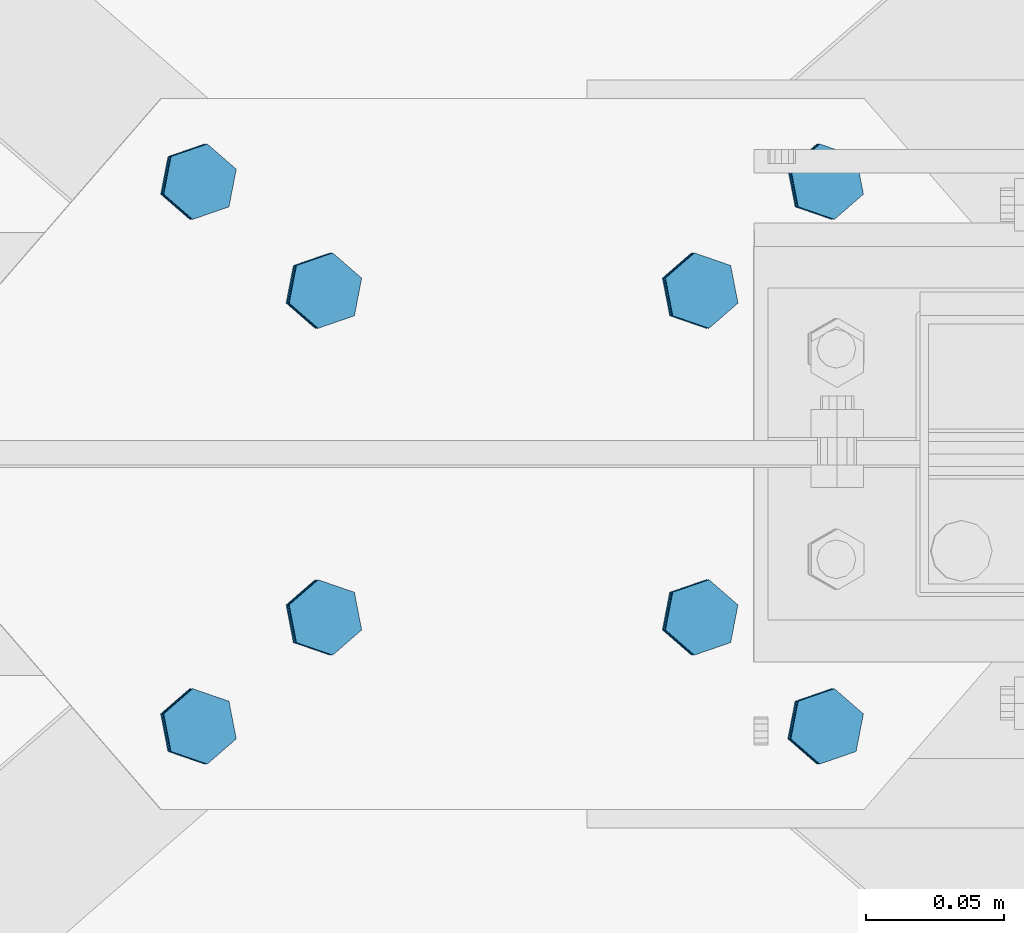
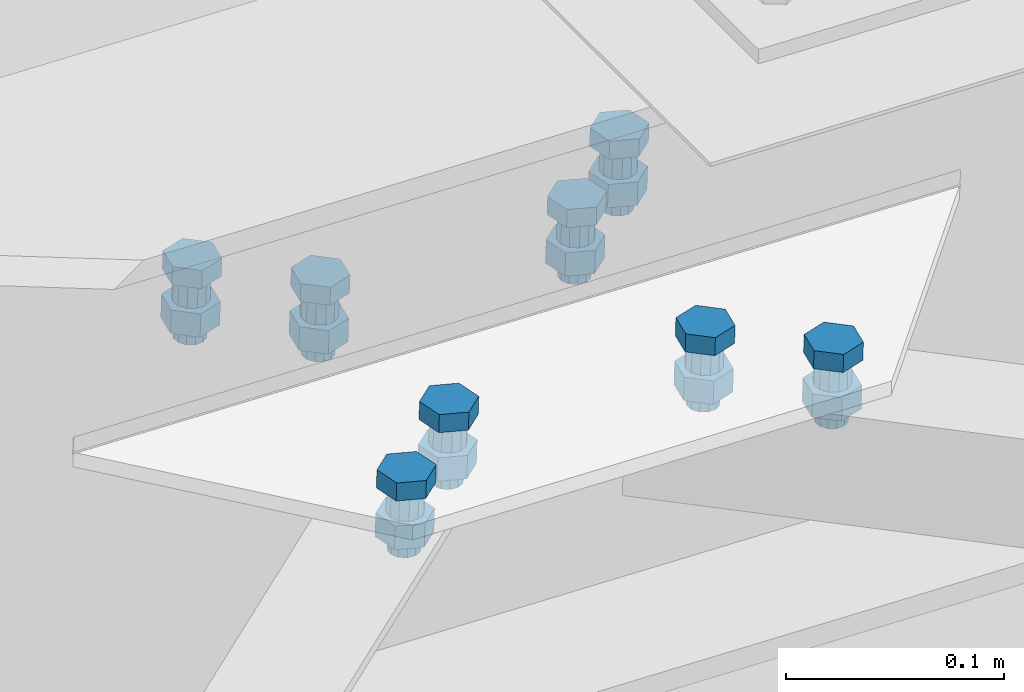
# One storey, part 238 of 3134: 4 mechanical fasteners, 3 elements without a shape of their own.
"""IFC2X3 building model written with IfcOpenShell, lengths in millimetres."""

from ifc_helpers import new_model, si_unit, frame, origin_with_axes, place, context, subcontext, project, spatial, faceted_brep, source, transform, mapped, material, type_object, element, aggregate, save


model = new_model("IFC2X3")

# Units and contexts
model_context = context("Model", 3, precision=1e-05, world=origin_with_axes())
body_context = subcontext(model_context, "Body", "Model", "MODEL_VIEW")
ifc_project = project(units=[si_unit("LENGTHUNIT", "METRE", prefix="MILLI"), si_unit("AREAUNIT", "SQUARE_METRE"), si_unit("VOLUMEUNIT", "CUBIC_METRE"), si_unit("MASSUNIT", "GRAM", prefix="KILO"), si_unit("TIMEUNIT", "SECOND"), si_unit("PLANEANGLEUNIT", "RADIAN"), si_unit("SOLIDANGLEUNIT", "STERADIAN"), si_unit("THERMODYNAMICTEMPERATUREUNIT", "DEGREE_CELSIUS"), si_unit("LUMINOUSINTENSITYUNIT", "LUMEN")], contexts=[model_context])

# Site, building, storey
site_placement = place(None, origin_with_axes())
site = spatial("IfcSite", under=ifc_project, at=site_placement, CompositionType="ELEMENT")
building_placement = place(site_placement, origin_with_axes())
building = spatial("IfcBuilding", under=site, at=building_placement, Name="Undefined", CompositionType="ELEMENT")
storey_placement = place(building_placement, origin_with_axes())
storey = spatial("IfcBuildingStorey", under=building, at=storey_placement, Name="Undefined", CompositionType="ELEMENT", Elevation=0.0)

# Assembly, mechanical fastener
assembly_1_placement = place(storey_placement, origin_with_axes())
assembly_1 = element("IfcElementAssembly", 1, at=assembly_1_placement, inside=storey, AssemblyPlace="NOTDEFINED", PredefinedType="RIGID_FRAME")
ifc_material = material(Name="8.8")
mechanical_fastener_type = type_object("IfcMechanicalFastenerType", Name="Bolt assembly")
shared_shape_1 = source(origin_with_axes(), body_context, "Body", "Brep", [
    faceted_brep([(13.856406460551, -14.0, 0.0), (6.92820323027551, -14.0, 12.0), (-6.92820323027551, -14.0, 12.0), (-13.856406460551, -14.0, 1.69692038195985e-15), (-6.92820323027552, -14.0, -12.0), (6.9282032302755, -14.0, -12.0), (6.9282032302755, -4.00000145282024, -12.0), (-6.92820323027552, -4.00000145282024, -12.0), (-13.856406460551, -4.00000145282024, 1.69692038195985e-15), (-6.92820323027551, -4.00000145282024, 12.0), (6.92820323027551, -4.00000145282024, 12.0), (13.856406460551, -4.00000145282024, 0.0), (8.0, -4.00000145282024, 0.0), (6.92820323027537, -4.00000145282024, 4.00000000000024), (3.99999999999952, -4.00000145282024, 6.92820323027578), (-8.29068785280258e-13, -4.00000145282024, 8.0), (-4.00000000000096, -4.00000145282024, 6.92820323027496), (-6.9282032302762, -4.00000145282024, 3.99999999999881), (-8.0, -4.00000145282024, -1.65813757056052e-12), (-6.92820323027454, -4.00000145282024, -4.00000000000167), (-3.99999999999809, -4.00000145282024, -6.92820323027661), (2.47832457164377e-12, -4.00000145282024, -8.0), (4.00000000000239, -4.00000145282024, -6.92820323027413), (6.92820323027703, -4.00000145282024, -3.99999999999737), (6.92820323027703, 31.0, -3.99999999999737), (4.00000000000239, 31.0, -6.92820323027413), (2.47832457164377e-12, 31.0, -8.0), (-3.99999999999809, 31.0, -6.92820323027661), (-6.92820323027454, 31.0, -4.00000000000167), (-8.0, 31.0, -1.65813757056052e-12), (-6.9282032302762, 31.0, 3.99999999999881), (-4.00000000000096, 31.0, 6.92820323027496), (-8.29068785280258e-13, 31.0, 8.0), (3.99999999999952, 31.0, 6.92820323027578), (6.92820323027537, 31.0, 4.00000000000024), (8.0, 31.0, 0.0), (13.856406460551, 9.99999995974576, 0.0), (6.92820323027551, 9.99999995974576, 12.0), (-6.92820323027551, 9.99999995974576, 12.0), (-13.856406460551, 9.99999995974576, 1.69692038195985e-15), (-6.92820323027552, 9.99999995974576, -12.0), (6.9282032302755, 9.99999995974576, -12.0), (6.9282032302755, 22.9999913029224, -12.0), (-6.92820323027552, 22.9999913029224, -12.0), (-13.856406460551, 22.9999913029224, 1.69692038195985e-15), (-6.92820323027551, 22.9999913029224, 12.0), (6.92820323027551, 22.9999913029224, 12.0), (13.856406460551, 22.9999913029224, 0.0)], [[[0, 1, 2, 3, 4, 5]], [[6, 7, 8, 9, 10, 11]], [[0, 11, 10, 1]], [[1, 10, 9, 2]], [[2, 9, 8, 3]], [[3, 8, 7, 4]], [[4, 7, 6, 5]], [[5, 6, 11, 0]], [[12, 13, 14, 15, 16, 17, 18, 19, 20, 21, 22, 23]], [[24, 25, 26, 27, 28, 29, 30, 31, 32, 33, 34, 35]], [[12, 35, 34, 13]], [[13, 34, 33, 14]], [[14, 33, 32, 15]], [[15, 32, 31, 16]], [[16, 31, 30, 17]], [[17, 30, 29, 18]], [[18, 29, 28, 19]], [[19, 28, 27, 20]], [[20, 27, 26, 21]], [[21, 26, 25, 22]], [[22, 25, 24, 23]], [[23, 24, 35, 12]], [[36, 37, 38, 39, 40, 41]], [[42, 43, 44, 45, 46, 47]], [[36, 47, 46, 37]], [[37, 46, 45, 38]], [[38, 45, 44, 39]], [[39, 44, 43, 40]], [[40, 43, 42, 41]], [[41, 42, 47, 36]]]),
    faceted_brep([(9.0, -3.9, 0.0), (7.79422863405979, -3.9, 4.50000000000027), (4.49999999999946, -3.9, 7.79422863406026), (-9.3270238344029e-13, -3.9, 9.0), (-4.50000000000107, -3.9, 7.79422863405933), (-7.79422863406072, -3.9, 4.49999999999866), (-9.0, -3.9, -1.86540476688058e-12), (-7.79422863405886, -3.9, -4.50000000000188), (-4.49999999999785, -3.9, -7.79422863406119), (2.78811514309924e-12, -3.9, -9.0), (4.50000000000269, -3.9, -7.7942286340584), (7.79422863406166, -3.9, -4.49999999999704), (7.79422863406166, 4.09999854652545, -4.49999999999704), (4.50000000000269, 4.09999854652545, -7.7942286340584), (2.78811514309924e-12, 4.09999854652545, -9.0), (-4.49999999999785, 4.09999854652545, -7.79422863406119), (-7.79422863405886, 4.09999854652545, -4.50000000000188), (-9.0, 4.09999854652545, -1.86540476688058e-12), (-7.79422863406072, 4.09999854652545, 4.49999999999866), (-4.50000000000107, 4.09999854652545, 7.79422863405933), (-9.3270238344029e-13, 4.09999854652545, 9.0), (4.49999999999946, 4.09999854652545, 7.79422863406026), (7.79422863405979, 4.09999854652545, 4.50000000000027), (9.0, 4.09999854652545, 0.0), (9.0, 3.9, 0.0), (7.79422863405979, 3.9, 4.50000000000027), (4.49999999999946, 3.9, 7.79422863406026), (-9.3270238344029e-13, 3.9, 9.0), (-4.50000000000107, 3.9, 7.79422863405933), (-7.79422863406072, 3.9, 4.49999999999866), (-9.0, 3.9, -1.86540476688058e-12), (-7.79422863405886, 3.9, -4.50000000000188), (-4.49999999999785, 3.9, -7.79422863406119), (2.78811514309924e-12, 3.9, -9.0), (4.50000000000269, 3.9, -7.7942286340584), (7.79422863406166, 3.9, -4.49999999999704), (7.79422863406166, 9.99999995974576, -4.49999999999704), (4.50000000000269, 9.99999995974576, -7.7942286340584), (2.78811514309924e-12, 9.99999995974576, -9.0), (-4.49999999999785, 9.99999995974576, -7.79422863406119), (-7.79422863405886, 9.99999995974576, -4.50000000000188), (-9.0, 9.99999995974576, -1.86540476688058e-12), (-7.79422863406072, 9.99999995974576, 4.49999999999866), (-4.50000000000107, 9.99999995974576, 7.79422863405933), (-9.3270238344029e-13, 9.99999995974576, 9.0), (4.49999999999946, 9.99999995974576, 7.79422863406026), (7.79422863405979, 9.99999995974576, 4.50000000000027), (9.0, 9.99999995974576, 0.0)], [[[0, 1, 2, 3, 4, 5, 6, 7, 8, 9, 10, 11]], [[12, 13, 14, 15, 16, 17, 18, 19, 20, 21, 22, 23]], [[0, 23, 22, 1]], [[1, 22, 21, 2]], [[2, 21, 20, 3]], [[3, 20, 19, 4]], [[4, 19, 18, 5]], [[5, 18, 17, 6]], [[6, 17, 16, 7]], [[7, 16, 15, 8]], [[8, 15, 14, 9]], [[9, 14, 13, 10]], [[10, 13, 12, 11]], [[11, 12, 23, 0]], [[24, 25, 26, 27, 28, 29, 30, 31, 32, 33, 34, 35]], [[36, 37, 38, 39, 40, 41, 42, 43, 44, 45, 46, 47]], [[24, 47, 46, 25]], [[25, 46, 45, 26]], [[26, 45, 44, 27]], [[27, 44, 43, 28]], [[28, 43, 42, 29]], [[29, 42, 41, 30]], [[30, 41, 40, 31]], [[31, 40, 39, 32]], [[32, 39, 38, 33]], [[33, 38, 37, 34]], [[34, 37, 36, 35]], [[35, 36, 47, 24]]]),
])
mechanical_fastener_1_placement = place(assembly_1_placement, frame((23106.9672242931, 58318.3356884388, 10322.7171545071), z_axis=(0.655256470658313, -0.755133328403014, -0.0203129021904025), x_axis=(-0.754770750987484, -0.655571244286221, 0.0233978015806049)))
mechanical_fastener_1 = element("IfcMechanicalFastener", 2, at=mechanical_fastener_1_placement, type_object=mechanical_fastener_type, material=ifc_material, Name="Bolt assembly", NominalDiameter=16.0, NominalLength=35.0, context=body_context, shape_type="MappedRepresentation", body=[
    mapped(shared_shape_1, transform((0.0, 0.0, 0.0))),
    mapped(shared_shape_1, transform((59.9999999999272, 0.0, 5.40239852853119e-10))),
])
aggregate(assembly_1, [mechanical_fastener_1])

# Assembly, mechanical fasteners
assembly_2_placement = place(storey_placement, origin_with_axes())
assembly_2 = element("IfcElementAssembly", 3, at=assembly_2_placement, inside=storey, Name="IPE330", AssemblyPlace="NOTDEFINED", PredefinedType="RIGID_FRAME")
shared_shape_2 = source(origin_with_axes(), body_context, "Body", "Brep", [
    faceted_brep([(13.856406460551, -14.0, 0.0), (6.92820323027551, -14.0, 12.0), (-6.92820323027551, -14.0, 12.0), (-13.856406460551, -14.0, 1.69692038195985e-15), (-6.92820323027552, -14.0, -12.0), (6.9282032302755, -14.0, -12.0), (6.9282032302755, -4.00000145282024, -12.0), (-6.92820323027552, -4.00000145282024, -12.0), (-13.856406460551, -4.00000145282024, 1.69692038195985e-15), (-6.92820323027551, -4.00000145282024, 12.0), (6.92820323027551, -4.00000145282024, 12.0), (13.856406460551, -4.00000145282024, 0.0), (8.0, -4.00000145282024, 0.0), (6.92820323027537, -4.00000145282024, 4.00000000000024), (3.99999999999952, -4.00000145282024, 6.92820323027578), (-8.29068785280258e-13, -4.00000145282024, 8.0), (-4.00000000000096, -4.00000145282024, 6.92820323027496), (-6.9282032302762, -4.00000145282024, 3.99999999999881), (-8.0, -4.00000145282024, -1.65813757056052e-12), (-6.92820323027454, -4.00000145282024, -4.00000000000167), (-3.99999999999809, -4.00000145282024, -6.92820323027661), (2.47832457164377e-12, -4.00000145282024, -8.0), (4.00000000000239, -4.00000145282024, -6.92820323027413), (6.92820323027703, -4.00000145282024, -3.99999999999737), (6.92820323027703, 31.0, -3.99999999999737), (4.00000000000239, 31.0, -6.92820323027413), (2.47832457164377e-12, 31.0, -8.0), (-3.99999999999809, 31.0, -6.92820323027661), (-6.92820323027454, 31.0, -4.00000000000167), (-8.0, 31.0, -1.65813757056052e-12), (-6.9282032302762, 31.0, 3.99999999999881), (-4.00000000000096, 31.0, 6.92820323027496), (-8.29068785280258e-13, 31.0, 8.0), (3.99999999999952, 31.0, 6.92820323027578), (6.92820323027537, 31.0, 4.00000000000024), (8.0, 31.0, 0.0), (13.856406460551, 9.99999995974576, 0.0), (6.92820323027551, 9.99999995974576, 12.0), (-6.92820323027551, 9.99999995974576, 12.0), (-13.856406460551, 9.99999995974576, 1.69692038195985e-15), (-6.92820323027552, 9.99999995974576, -12.0), (6.9282032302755, 9.99999995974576, -12.0), (6.9282032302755, 22.9999913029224, -12.0), (-6.92820323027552, 22.9999913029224, -12.0), (-13.856406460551, 22.9999913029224, 1.69692038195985e-15), (-6.92820323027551, 22.9999913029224, 12.0), (6.92820323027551, 22.9999913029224, 12.0), (13.856406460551, 22.9999913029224, 0.0)], [[[0, 1, 2, 3, 4, 5]], [[6, 7, 8, 9, 10, 11]], [[0, 11, 10, 1]], [[1, 10, 9, 2]], [[2, 9, 8, 3]], [[3, 8, 7, 4]], [[4, 7, 6, 5]], [[5, 6, 11, 0]], [[12, 13, 14, 15, 16, 17, 18, 19, 20, 21, 22, 23]], [[24, 25, 26, 27, 28, 29, 30, 31, 32, 33, 34, 35]], [[12, 35, 34, 13]], [[13, 34, 33, 14]], [[14, 33, 32, 15]], [[15, 32, 31, 16]], [[16, 31, 30, 17]], [[17, 30, 29, 18]], [[18, 29, 28, 19]], [[19, 28, 27, 20]], [[20, 27, 26, 21]], [[21, 26, 25, 22]], [[22, 25, 24, 23]], [[23, 24, 35, 12]], [[36, 37, 38, 39, 40, 41]], [[42, 43, 44, 45, 46, 47]], [[36, 47, 46, 37]], [[37, 46, 45, 38]], [[38, 45, 44, 39]], [[39, 44, 43, 40]], [[40, 43, 42, 41]], [[41, 42, 47, 36]]]),
    faceted_brep([(9.0, 3.9, 0.0), (7.79422863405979, 3.9, 4.50000000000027), (4.49999999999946, 3.9, 7.79422863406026), (-9.3270238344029e-13, 3.9, 9.0), (-4.50000000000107, 3.9, 7.79422863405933), (-7.79422863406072, 3.9, 4.49999999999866), (-9.0, 3.9, -1.86540476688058e-12), (-7.79422863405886, 3.9, -4.50000000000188), (-4.49999999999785, 3.9, -7.79422863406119), (2.78811514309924e-12, 3.9, -9.0), (4.50000000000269, 3.9, -7.7942286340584), (7.79422863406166, 3.9, -4.49999999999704), (7.79422863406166, 9.99999995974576, -4.49999999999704), (4.50000000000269, 9.99999995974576, -7.7942286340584), (2.78811514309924e-12, 9.99999995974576, -9.0), (-4.49999999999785, 9.99999995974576, -7.79422863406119), (-7.79422863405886, 9.99999995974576, -4.50000000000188), (-9.0, 9.99999995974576, -1.86540476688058e-12), (-7.79422863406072, 9.99999995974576, 4.49999999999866), (-4.50000000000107, 9.99999995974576, 7.79422863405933), (-9.3270238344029e-13, 9.99999995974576, 9.0), (4.49999999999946, 9.99999995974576, 7.79422863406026), (7.79422863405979, 9.99999995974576, 4.50000000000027), (9.0, 9.99999995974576, 0.0), (9.0, -3.9, 0.0), (7.79422863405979, -3.9, 4.50000000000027), (4.49999999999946, -3.9, 7.79422863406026), (-9.3270238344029e-13, -3.9, 9.0), (-4.50000000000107, -3.9, 7.79422863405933), (-7.79422863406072, -3.9, 4.49999999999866), (-9.0, -3.9, -1.86540476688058e-12), (-7.79422863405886, -3.9, -4.50000000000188), (-4.49999999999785, -3.9, -7.79422863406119), (2.78811514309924e-12, -3.9, -9.0), (4.50000000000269, -3.9, -7.7942286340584), (7.79422863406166, -3.9, -4.49999999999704), (7.79422863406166, 4.09999854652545, -4.49999999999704), (4.50000000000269, 4.09999854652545, -7.7942286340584), (2.78811514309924e-12, 4.09999854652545, -9.0), (-4.49999999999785, 4.09999854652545, -7.79422863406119), (-7.79422863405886, 4.09999854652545, -4.50000000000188), (-9.0, 4.09999854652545, -1.86540476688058e-12), (-7.79422863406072, 4.09999854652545, 4.49999999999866), (-4.50000000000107, 4.09999854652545, 7.79422863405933), (-9.3270238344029e-13, 4.09999854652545, 9.0), (4.49999999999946, 4.09999854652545, 7.79422863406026), (7.79422863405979, 4.09999854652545, 4.50000000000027), (9.0, 4.09999854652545, 0.0)], [[[0, 1, 2, 3, 4, 5, 6, 7, 8, 9, 10, 11]], [[12, 13, 14, 15, 16, 17, 18, 19, 20, 21, 22, 23]], [[0, 23, 22, 1]], [[1, 22, 21, 2]], [[2, 21, 20, 3]], [[3, 20, 19, 4]], [[4, 19, 18, 5]], [[5, 18, 17, 6]], [[6, 17, 16, 7]], [[7, 16, 15, 8]], [[8, 15, 14, 9]], [[9, 14, 13, 10]], [[10, 13, 12, 11]], [[11, 12, 23, 0]], [[24, 25, 26, 27, 28, 29, 30, 31, 32, 33, 34, 35]], [[36, 37, 38, 39, 40, 41, 42, 43, 44, 45, 46, 47]], [[24, 47, 46, 25]], [[25, 46, 45, 26]], [[26, 45, 44, 27]], [[27, 44, 43, 28]], [[28, 43, 42, 29]], [[29, 42, 41, 30]], [[30, 41, 40, 31]], [[31, 40, 39, 32]], [[32, 39, 38, 33]], [[33, 38, 37, 34]], [[34, 37, 36, 35]], [[35, 36, 47, 24]]]),
])
mechanical_fastener_2_placement = place(assembly_2_placement, frame((22925.8168711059, 58278.9952136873, 10328.3328154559), z_axis=(-0.655215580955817, -0.75516884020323, 0.0203117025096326), x_axis=(-0.754806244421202, 0.655530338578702, 0.0233989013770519)))
mechanical_fastener_2 = element("IfcMechanicalFastener", 4, at=mechanical_fastener_2_placement, type_object=mechanical_fastener_type, material=ifc_material, Name="Bolt assembly", NominalDiameter=16.0, NominalLength=35.0, context=body_context, shape_type="MappedRepresentation", body=[
    mapped(shared_shape_2, transform((0.0, 0.0, 0.0))),
    mapped(shared_shape_2, transform((59.9999999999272, 0.0, 5.40239852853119e-10))),
])
shared_shape_3 = source(origin_with_axes(), body_context, "Body", "Brep", [
    faceted_brep([(13.856406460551, -14.0, 0.0), (6.92820323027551, -14.0, 12.0), (-6.92820323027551, -14.0, 12.0), (-13.856406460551, -14.0, 1.69692038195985e-15), (-6.92820323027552, -14.0, -12.0), (6.9282032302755, -14.0, -12.0), (6.9282032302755, -4.00000145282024, -12.0), (-6.92820323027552, -4.00000145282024, -12.0), (-13.856406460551, -4.00000145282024, 1.69692038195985e-15), (-6.92820323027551, -4.00000145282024, 12.0), (6.92820323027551, -4.00000145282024, 12.0), (13.856406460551, -4.00000145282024, 0.0), (8.0, -4.00000145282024, 0.0), (6.92820323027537, -4.00000145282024, 4.00000000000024), (3.99999999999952, -4.00000145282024, 6.92820323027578), (-8.29068785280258e-13, -4.00000145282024, 8.0), (-4.00000000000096, -4.00000145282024, 6.92820323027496), (-6.9282032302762, -4.00000145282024, 3.99999999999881), (-8.0, -4.00000145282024, -1.65813757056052e-12), (-6.92820323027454, -4.00000145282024, -4.00000000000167), (-3.99999999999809, -4.00000145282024, -6.92820323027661), (2.47832457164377e-12, -4.00000145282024, -8.0), (4.00000000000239, -4.00000145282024, -6.92820323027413), (6.92820323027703, -4.00000145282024, -3.99999999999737), (6.92820323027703, 31.0, -3.99999999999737), (4.00000000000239, 31.0, -6.92820323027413), (2.47832457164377e-12, 31.0, -8.0), (-3.99999999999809, 31.0, -6.92820323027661), (-6.92820323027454, 31.0, -4.00000000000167), (-8.0, 31.0, -1.65813757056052e-12), (-6.9282032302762, 31.0, 3.99999999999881), (-4.00000000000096, 31.0, 6.92820323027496), (-8.29068785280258e-13, 31.0, 8.0), (3.99999999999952, 31.0, 6.92820323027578), (6.92820323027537, 31.0, 4.00000000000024), (8.0, 31.0, 0.0), (13.856406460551, 9.99990751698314, 0.0), (6.92820323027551, 9.99990751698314, 12.0), (-6.92820323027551, 9.99990751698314, 12.0), (-13.856406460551, 9.99990751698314, 1.69692038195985e-15), (-6.92820323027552, 9.99990751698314, -12.0), (6.9282032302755, 9.99990751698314, -12.0), (6.9282032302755, 22.9999075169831, -12.0), (-6.92820323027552, 22.9999075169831, -12.0), (-13.856406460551, 22.9999075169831, 1.69692038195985e-15), (-6.92820323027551, 22.9999075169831, 12.0), (6.92820323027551, 22.9999075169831, 12.0), (13.856406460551, 22.9999075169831, 0.0)], [[[0, 1, 2, 3, 4, 5]], [[6, 7, 8, 9, 10, 11]], [[0, 11, 10, 1]], [[1, 10, 9, 2]], [[2, 9, 8, 3]], [[3, 8, 7, 4]], [[4, 7, 6, 5]], [[5, 6, 11, 0]], [[12, 13, 14, 15, 16, 17, 18, 19, 20, 21, 22, 23]], [[24, 25, 26, 27, 28, 29, 30, 31, 32, 33, 34, 35]], [[12, 35, 34, 13]], [[13, 34, 33, 14]], [[14, 33, 32, 15]], [[15, 32, 31, 16]], [[16, 31, 30, 17]], [[17, 30, 29, 18]], [[18, 29, 28, 19]], [[19, 28, 27, 20]], [[20, 27, 26, 21]], [[21, 26, 25, 22]], [[22, 25, 24, 23]], [[23, 24, 35, 12]], [[36, 37, 38, 39, 40, 41]], [[42, 43, 44, 45, 46, 47]], [[36, 47, 46, 37]], [[37, 46, 45, 38]], [[38, 45, 44, 39]], [[39, 44, 43, 40]], [[40, 43, 42, 41]], [[41, 42, 47, 36]]]),
    faceted_brep([(9.0, 3.89990751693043, 0.0), (7.79422863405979, 3.89990751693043, 4.50000000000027), (4.49999999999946, 3.89990751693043, 7.79422863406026), (-9.3270238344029e-13, 3.89990751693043, 9.0), (-4.50000000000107, 3.89990751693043, 7.79422863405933), (-7.79422863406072, 3.89990751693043, 4.49999999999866), (-9.0, 3.89990751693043, -1.86540476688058e-12), (-7.79422863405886, 3.89990751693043, -4.50000000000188), (-4.49999999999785, 3.89990751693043, -7.79422863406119), (2.78811514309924e-12, 3.89990751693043, -9.0), (4.50000000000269, 3.89990751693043, -7.7942286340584), (7.79422863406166, 3.89990751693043, -4.49999999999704), (7.79422863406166, 9.99990751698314, -4.49999999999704), (4.50000000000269, 9.99990751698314, -7.7942286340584), (2.78811514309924e-12, 9.99990751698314, -9.0), (-4.49999999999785, 9.99990751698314, -7.79422863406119), (-7.79422863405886, 9.99990751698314, -4.50000000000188), (-9.0, 9.99990751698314, -1.86540476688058e-12), (-7.79422863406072, 9.99990751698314, 4.49999999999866), (-4.50000000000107, 9.99990751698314, 7.79422863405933), (-9.3270238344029e-13, 9.99990751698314, 9.0), (4.49999999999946, 9.99990751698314, 7.79422863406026), (7.79422863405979, 9.99990751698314, 4.50000000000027), (9.0, 9.99990751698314, 0.0), (9.0, -3.9, 0.0), (7.79422863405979, -3.9, 4.50000000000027), (4.49999999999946, -3.9, 7.79422863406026), (-9.3270238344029e-13, -3.9, 9.0), (-4.50000000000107, -3.9, 7.79422863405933), (-7.79422863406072, -3.9, 4.49999999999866), (-9.0, -3.9, -1.86540476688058e-12), (-7.79422863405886, -3.9, -4.50000000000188), (-4.49999999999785, -3.9, -7.79422863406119), (2.78811514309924e-12, -3.9, -9.0), (4.50000000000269, -3.9, -7.7942286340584), (7.79422863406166, -3.9, -4.49999999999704), (7.79422863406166, 4.09999854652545, -4.49999999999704), (4.50000000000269, 4.09999854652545, -7.7942286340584), (2.78811514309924e-12, 4.09999854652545, -9.0), (-4.49999999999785, 4.09999854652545, -7.79422863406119), (-7.79422863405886, 4.09999854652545, -4.50000000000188), (-9.0, 4.09999854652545, -1.86540476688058e-12), (-7.79422863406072, 4.09999854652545, 4.49999999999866), (-4.50000000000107, 4.09999854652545, 7.79422863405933), (-9.3270238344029e-13, 4.09999854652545, 9.0), (4.49999999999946, 4.09999854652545, 7.79422863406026), (7.79422863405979, 4.09999854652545, 4.50000000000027), (9.0, 4.09999854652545, 0.0)], [[[0, 1, 2, 3, 4, 5, 6, 7, 8, 9, 10, 11]], [[12, 13, 14, 15, 16, 17, 18, 19, 20, 21, 22, 23]], [[0, 23, 22, 1]], [[1, 22, 21, 2]], [[2, 21, 20, 3]], [[3, 20, 19, 4]], [[4, 19, 18, 5]], [[5, 18, 17, 6]], [[6, 17, 16, 7]], [[7, 16, 15, 8]], [[8, 15, 14, 9]], [[9, 14, 13, 10]], [[10, 13, 12, 11]], [[11, 12, 23, 0]], [[24, 25, 26, 27, 28, 29, 30, 31, 32, 33, 34, 35]], [[36, 37, 38, 39, 40, 41, 42, 43, 44, 45, 46, 47]], [[24, 47, 46, 25]], [[25, 46, 45, 26]], [[26, 45, 44, 27]], [[27, 44, 43, 28]], [[28, 43, 42, 29]], [[29, 42, 41, 30]], [[30, 41, 40, 31]], [[31, 40, 39, 32]], [[32, 39, 38, 33]], [[33, 38, 37, 34]], [[34, 37, 36, 35]], [[35, 36, 47, 24]]]),
])
mechanical_fastener_3_placement = place(assembly_2_placement, frame((22925.8085110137, 58160.9985876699, 10328.3330746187), z_axis=(0.655226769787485, -0.755159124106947, -0.0203120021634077), x_axis=(-0.754796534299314, -0.655541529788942, 0.0233986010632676)))
mechanical_fastener_3 = element("IfcMechanicalFastener", 5, at=mechanical_fastener_3_placement, type_object=mechanical_fastener_type, material=ifc_material, Name="Bolt assembly", NominalDiameter=16.0, NominalLength=35.0, context=body_context, shape_type="MappedRepresentation", body=[
    mapped(shared_shape_3, transform((0.0, 0.0, 0.0))),
    mapped(shared_shape_3, transform((59.9999999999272, 0.0, 5.40239852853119e-10))),
])
aggregate(assembly_2, [mechanical_fastener_3, mechanical_fastener_2])

# Assembly, mechanical fastener
assembly_3_placement = place(storey_placement, origin_with_axes())
assembly_3 = element("IfcElementAssembly", 6, at=assembly_3_placement, inside=storey, AssemblyPlace="NOTDEFINED", PredefinedType="RIGID_FRAME")
shared_shape_4 = source(origin_with_axes(), body_context, "Body", "Brep", [
    faceted_brep([(13.856406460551, -14.0, 0.0), (6.92820323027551, -14.0, 12.0), (-6.92820323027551, -14.0, 12.0), (-13.856406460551, -14.0, 1.69692038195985e-15), (-6.92820323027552, -14.0, -12.0), (6.9282032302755, -14.0, -12.0), (6.9282032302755, -4.00000145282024, -12.0), (-6.92820323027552, -4.00000145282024, -12.0), (-13.856406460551, -4.00000145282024, 1.69692038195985e-15), (-6.92820323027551, -4.00000145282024, 12.0), (6.92820323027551, -4.00000145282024, 12.0), (13.856406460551, -4.00000145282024, 0.0), (8.0, -4.00000145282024, 0.0), (6.92820323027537, -4.00000145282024, 4.00000000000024), (3.99999999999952, -4.00000145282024, 6.92820323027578), (-8.29068785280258e-13, -4.00000145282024, 8.0), (-4.00000000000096, -4.00000145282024, 6.92820323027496), (-6.9282032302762, -4.00000145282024, 3.99999999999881), (-8.0, -4.00000145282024, -1.65813757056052e-12), (-6.92820323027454, -4.00000145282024, -4.00000000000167), (-3.99999999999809, -4.00000145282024, -6.92820323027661), (2.47832457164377e-12, -4.00000145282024, -8.0), (4.00000000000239, -4.00000145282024, -6.92820323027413), (6.92820323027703, -4.00000145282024, -3.99999999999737), (6.92820323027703, 31.0, -3.99999999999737), (4.00000000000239, 31.0, -6.92820323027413), (2.47832457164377e-12, 31.0, -8.0), (-3.99999999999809, 31.0, -6.92820323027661), (-6.92820323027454, 31.0, -4.00000000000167), (-8.0, 31.0, -1.65813757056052e-12), (-6.9282032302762, 31.0, 3.99999999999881), (-4.00000000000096, 31.0, 6.92820323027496), (-8.29068785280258e-13, 31.0, 8.0), (3.99999999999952, 31.0, 6.92820323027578), (6.92820323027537, 31.0, 4.00000000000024), (8.0, 31.0, 0.0), (13.856406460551, 10.0003657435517, 0.0), (6.92820323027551, 10.0003657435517, 12.0), (-6.92820323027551, 10.0003657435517, 12.0), (-13.856406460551, 10.0003657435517, 1.69692038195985e-15), (-6.92820323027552, 10.0003657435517, -12.0), (6.9282032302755, 10.0003657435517, -12.0), (6.9282032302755, 23.0003657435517, -12.0), (-6.92820323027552, 23.0003657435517, -12.0), (-13.856406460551, 23.0003657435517, 1.69692038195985e-15), (-6.92820323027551, 23.0003657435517, 12.0), (6.92820323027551, 23.0003657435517, 12.0), (13.856406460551, 23.0003657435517, 0.0)], [[[0, 1, 2, 3, 4, 5]], [[6, 7, 8, 9, 10, 11]], [[0, 11, 10, 1]], [[1, 10, 9, 2]], [[2, 9, 8, 3]], [[3, 8, 7, 4]], [[4, 7, 6, 5]], [[5, 6, 11, 0]], [[12, 13, 14, 15, 16, 17, 18, 19, 20, 21, 22, 23]], [[24, 25, 26, 27, 28, 29, 30, 31, 32, 33, 34, 35]], [[12, 35, 34, 13]], [[13, 34, 33, 14]], [[14, 33, 32, 15]], [[15, 32, 31, 16]], [[16, 31, 30, 17]], [[17, 30, 29, 18]], [[18, 29, 28, 19]], [[19, 28, 27, 20]], [[20, 27, 26, 21]], [[21, 26, 25, 22]], [[22, 25, 24, 23]], [[23, 24, 35, 12]], [[36, 37, 38, 39, 40, 41]], [[42, 43, 44, 45, 46, 47]], [[36, 47, 46, 37]], [[37, 46, 45, 38]], [[38, 45, 44, 39]], [[39, 44, 43, 40]], [[40, 43, 42, 41]], [[41, 42, 47, 36]]]),
    faceted_brep([(9.0, -3.9, 0.0), (7.79422863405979, -3.9, 4.50000000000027), (4.49999999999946, -3.9, 7.79422863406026), (-9.3270238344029e-13, -3.9, 9.0), (-4.50000000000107, -3.9, 7.79422863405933), (-7.79422863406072, -3.9, 4.49999999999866), (-9.0, -3.9, -1.86540476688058e-12), (-7.79422863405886, -3.9, -4.50000000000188), (-4.49999999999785, -3.9, -7.79422863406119), (2.78811514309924e-12, -3.9, -9.0), (4.50000000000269, -3.9, -7.7942286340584), (7.79422863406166, -3.9, -4.49999999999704), (7.79422863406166, 4.09999854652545, -4.49999999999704), (4.50000000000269, 4.09999854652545, -7.7942286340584), (2.78811514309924e-12, 4.09999854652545, -9.0), (-4.49999999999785, 4.09999854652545, -7.79422863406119), (-7.79422863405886, 4.09999854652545, -4.50000000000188), (-9.0, 4.09999854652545, -1.86540476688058e-12), (-7.79422863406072, 4.09999854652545, 4.49999999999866), (-4.50000000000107, 4.09999854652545, 7.79422863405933), (-9.3270238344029e-13, 4.09999854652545, 9.0), (4.49999999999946, 4.09999854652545, 7.79422863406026), (7.79422863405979, 4.09999854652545, 4.50000000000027), (9.0, 4.09999854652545, 0.0), (9.0, 3.90036574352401, 0.0), (7.79422863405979, 3.90036574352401, 4.50000000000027), (4.49999999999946, 3.90036574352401, 7.79422863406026), (-9.3270238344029e-13, 3.90036574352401, 9.0), (-4.50000000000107, 3.90036574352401, 7.79422863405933), (-7.79422863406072, 3.90036574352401, 4.49999999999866), (-9.0, 3.90036574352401, -1.86540476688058e-12), (-7.79422863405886, 3.90036574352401, -4.50000000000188), (-4.49999999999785, 3.90036574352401, -7.79422863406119), (2.78811514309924e-12, 3.90036574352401, -9.0), (4.50000000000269, 3.90036574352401, -7.7942286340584), (7.79422863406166, 3.90036574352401, -4.49999999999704), (7.79422863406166, 10.0003657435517, -4.49999999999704), (4.50000000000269, 10.0003657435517, -7.7942286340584), (2.78811514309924e-12, 10.0003657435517, -9.0), (-4.49999999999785, 10.0003657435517, -7.79422863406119), (-7.79422863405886, 10.0003657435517, -4.50000000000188), (-9.0, 10.0003657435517, -1.86540476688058e-12), (-7.79422863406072, 10.0003657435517, 4.49999999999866), (-4.50000000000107, 10.0003657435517, 7.79422863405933), (-9.3270238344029e-13, 10.0003657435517, 9.0), (4.49999999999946, 10.0003657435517, 7.79422863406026), (7.79422863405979, 10.0003657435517, 4.50000000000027), (9.0, 10.0003657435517, 0.0)], [[[0, 1, 2, 3, 4, 5, 6, 7, 8, 9, 10, 11]], [[12, 13, 14, 15, 16, 17, 18, 19, 20, 21, 22, 23]], [[0, 23, 22, 1]], [[1, 22, 21, 2]], [[2, 21, 20, 3]], [[3, 20, 19, 4]], [[4, 19, 18, 5]], [[5, 18, 17, 6]], [[6, 17, 16, 7]], [[7, 16, 15, 8]], [[8, 15, 14, 9]], [[9, 14, 13, 10]], [[10, 13, 12, 11]], [[11, 12, 23, 0]], [[24, 25, 26, 27, 28, 29, 30, 31, 32, 33, 34, 35]], [[36, 37, 38, 39, 40, 41, 42, 43, 44, 45, 46, 47]], [[24, 47, 46, 25]], [[25, 46, 45, 26]], [[26, 45, 44, 27]], [[27, 44, 43, 28]], [[28, 43, 42, 29]], [[29, 42, 41, 30]], [[30, 41, 40, 31]], [[31, 40, 39, 32]], [[32, 39, 38, 33]], [[33, 38, 37, 34]], [[34, 37, 36, 35]], [[35, 36, 47, 24]]]),
])
mechanical_fastener_4_placement = place(assembly_3_placement, frame((23106.9610065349, 58121.6729792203, 10322.7173472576), z_axis=(-0.655246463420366, -0.755142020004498, 0.0203126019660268), x_axis=(-0.754779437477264, 0.655561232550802, 0.023398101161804)))
mechanical_fastener_4 = element("IfcMechanicalFastener", 7, at=mechanical_fastener_4_placement, type_object=mechanical_fastener_type, material=ifc_material, Name="Bolt assembly", NominalDiameter=16.0, NominalLength=35.0, context=body_context, shape_type="MappedRepresentation", body=[
    mapped(shared_shape_4, transform((0.0, 0.0, 0.0))),
    mapped(shared_shape_4, transform((59.9999999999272, 0.0, 5.40239852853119e-10))),
])
aggregate(assembly_3, [mechanical_fastener_4])

save(model, "model.ifc")
